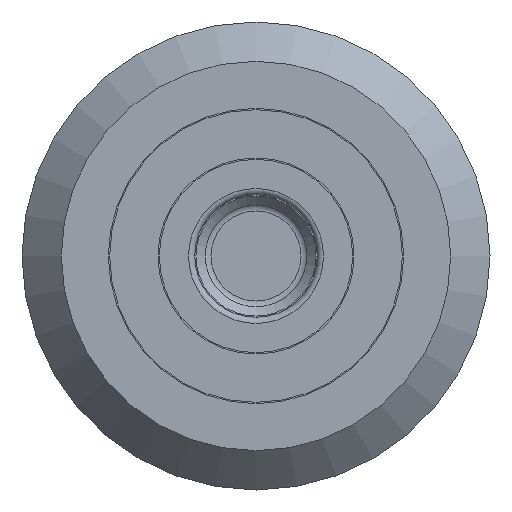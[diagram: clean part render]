
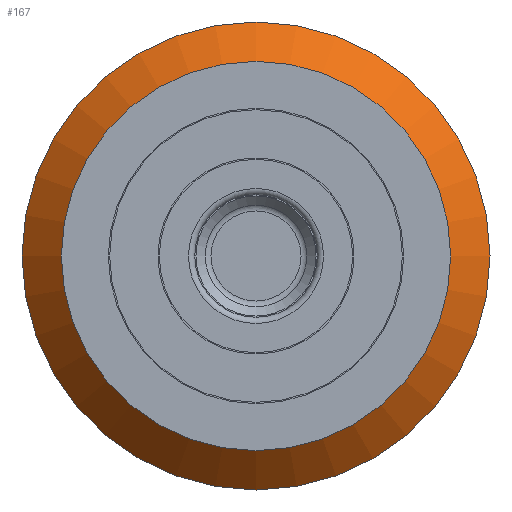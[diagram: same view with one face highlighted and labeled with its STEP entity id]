
A CAD part, left-side view. The second image highlights one B-rep face of the part: STEP entity #167.
In plain terms, the highlighted conical face has half-angle 45 degrees and reference radius 22.898 mm.
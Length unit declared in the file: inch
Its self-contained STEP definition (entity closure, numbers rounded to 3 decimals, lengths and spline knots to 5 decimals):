
#167 = ADVANCED_FACE( '', ( #366, #367 ), #368, .T. );
#366 = FACE_BOUND( '', #620, .T. );
#367 = FACE_OUTER_BOUND( '', #621, .T. );
#368 = CONICAL_SURFACE( '', #622, 0.9015, 0.785 );
#620 = EDGE_LOOP( '', ( #912 ) );
#621 = EDGE_LOOP( '', ( #913 ) );
#622 = AXIS2_PLACEMENT_3D( '', #914, #915, #916 );
#912 = ORIENTED_EDGE( '', *, *, #1288, .T. );
#913 = ORIENTED_EDGE( '', *, *, #1289, .F. );
#914 = CARTESIAN_POINT( '', ( -0.161, 0., 0. ) );
#915 = DIRECTION( '', ( 1., 0., 0. ) );
#916 = DIRECTION( '', ( 0., 1., 0. ) );
#1288 = EDGE_CURVE( '', #1479, #1479, #1480, .T. );
#1289 = EDGE_CURVE( '', #1481, #1481, #1482, .T. );
#1479 = VERTEX_POINT( '', #1744 );
#1480 = CIRCLE( '', #1745, 0.75 );
#1481 = VERTEX_POINT( '', #1746 );
#1482 = CIRCLE( '', #1747, 0.9015 );
#1744 = CARTESIAN_POINT( '', ( -0.3125, 0.75, 0. ) );
#1745 = AXIS2_PLACEMENT_3D( '', #2061, #2062, #2063 );
#1746 = CARTESIAN_POINT( '', ( -0.161, 0.9015, 0. ) );
#1747 = AXIS2_PLACEMENT_3D( '', #2064, #2065, #2066 );
#2061 = CARTESIAN_POINT( '', ( -0.3125, 0., 0. ) );
#2062 = DIRECTION( '', ( 1., 0., 0. ) );
#2063 = DIRECTION( '', ( 0., 1., 0. ) );
#2064 = CARTESIAN_POINT( '', ( -0.161, 0., 0. ) );
#2065 = DIRECTION( '', ( 1., 0., 0. ) );
#2066 = DIRECTION( '', ( 0., 1., 0. ) );
